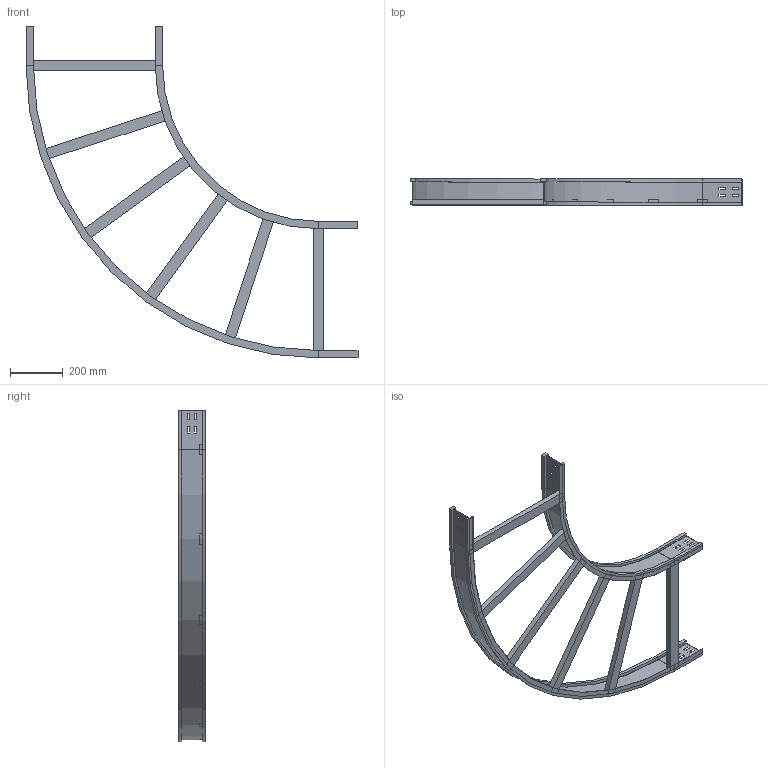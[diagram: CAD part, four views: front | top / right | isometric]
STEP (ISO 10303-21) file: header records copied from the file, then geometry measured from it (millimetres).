
FILE_DESCRIPTION (( 'STEP AP214' ), '1' );
FILE_NAME ('10S6D500.step', '2025-02-21T16:09:35', ( '' ), ( '' ), 'SwSTEP 2.0', 'SolidWorks 2023', '' );
FILE_SCHEMA (( 'AUTOMOTIVE_DESIGN' ));
Length unit declared in the file: millimetre
Products named in the file (4): LONGH.ESTERNO 90°_H100_R600+500; TRAVERSINO_500; LONGH.INTERNO 90°_H100_R600; 10S6D500
Assembly tree (8 placements, depth 2):
  10S6D500
    LONGH.INTERNO 90°_H100_R600
    LONGH.ESTERNO 90°_H100_R600+500
    TRAVERSINO_500  x6
Bounding box: 1259 x 100 x 1259 mm (x, y, z)
Volume: 4144125.1 mm3; surface area: 1338390.1 mm2
Topology: 8 solids, 8 shells, 176 faces, 432 edges, 272 vertices
Faces by surface type: plane 164, cylinder 12
Entity records: 4501 total; most frequent: CARTESIAN_POINT 761, ORIENTED_EDGE 744, DIRECTION 710, EDGE_CURVE 372, LINE 348, VECTOR 348, VERTEX_POINT 232, AXIS2_PLACEMENT_3D 181
